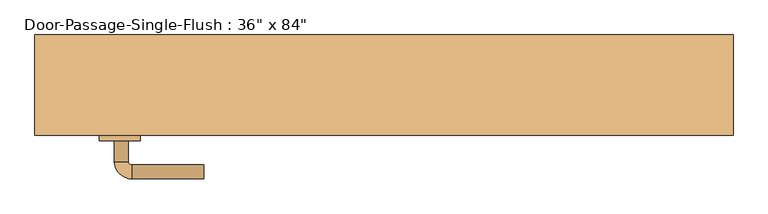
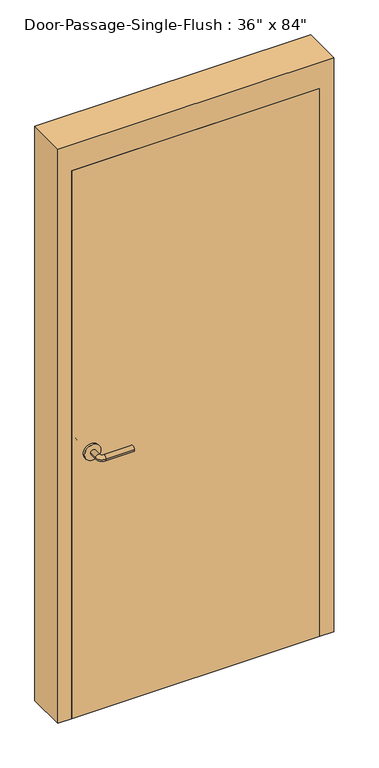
"""IFC4 building model written with IfcOpenShell, lengths in millimetres: door geometry."""

import ifcopenshell
import ifcopenshell.guid

model = None  # the IFC model being written
_history = None  # IfcOwnerHistory: only IFC2X3 demands one
_inside = {}  # id of a spatial element -> (the spatial element, [elements in it])
_under = {}  # id of a project, library or spatial element -> (it, [spatial elements below it])
_declared = {}  # id of a project -> (the project, [libraries it declares])
_typed = {}  # id of a type object -> (the type object, [elements of that type])
_made_of = {}  # id of a material, layer set ... -> (it, [elements and type objects made of it])


def new_model(schema):
    """Start an empty IFC model of exactly this schema.

    Asked for "IFC4X3", IfcOpenShell would pick the latest addendum, in which some entities
    have other attributes; the version numbers below select the first issue.
    IFC2X3 requires an IfcOwnerHistory on every rooted entity: one is made here for all.
    """
    global model, _history
    if schema == "IFC4X3":
        model = ifcopenshell.file(schema_version=(4, 3, 0, 0))
    else:
        model = ifcopenshell.file(schema=schema)
    _inside.clear()
    _under.clear()
    _declared.clear()
    _typed.clear()
    _made_of.clear()
    _history = None
    if model.schema == "IFC2X3":
        org = make("IfcOrganization", Name="unknown")
        user = make(
            "IfcPersonAndOrganization",
            ThePerson=make("IfcPerson", FamilyName="unknown"),
            TheOrganization=org,
        )
        app = make(
            "IfcApplication",
            ApplicationDeveloper=org,
            Version="unknown",
            ApplicationFullName="unknown",
            ApplicationIdentifier="unknown",
        )
        _history = make(
            "IfcOwnerHistory",
            OwningUser=user,
            OwningApplication=app,
            ChangeAction="ADDED",
            CreationDate=0,
        )
    return model


def make(cls, **values):
    """One entity of the class cls with the attributes given. An attribute that is None is left unset."""
    return model.create_entity(
        cls, **{name: value for name, value in values.items() if value is not None}
    )


def rooted(cls, **values):
    """An entity with a GlobalId (a new one), such as an element, a storey or a relation."""
    return make(cls, GlobalId=ifcopenshell.guid.new(), OwnerHistory=_history, **values)


def si_unit(unit_type, name, prefix=None):
    """IfcSIUnit, for example si_unit("LENGTHUNIT", "METRE", prefix="MILLI")."""
    return make("IfcSIUnit", UnitType=unit_type, Prefix=prefix, Name=name)


def assignment(units):
    """IfcUnitAssignment: the units of a project."""
    return None if units is None else make("IfcUnitAssignment", Units=units)


def point(xyz):
    """IfcCartesianPoint."""
    return None if xyz is None else make("IfcCartesianPoint", Coordinates=xyz)


def direction(xyz):
    """IfcDirection."""
    return None if xyz is None else make("IfcDirection", DirectionRatios=xyz)


def frame(location, z_axis=None, x_axis=None):
    """IfcAxis2Placement3D, a coordinate frame: its origin and axes. An axis left out is left unset."""
    return make(
        "IfcAxis2Placement3D",
        Location=point(location),
        Axis=direction(z_axis),
        RefDirection=direction(x_axis),
    )


def frame_2d(location, x_axis=None):
    """IfcAxis2Placement2D, a coordinate frame in the plane: its origin and x axis."""
    return make(
        "IfcAxis2Placement2D", Location=point(location), RefDirection=direction(x_axis)
    )


def origin():
    """The frame at (0, 0, 0) with its axes left unset."""
    return frame((0.0, 0.0, 0.0))


def origin_with_axes():
    """The frame at (0, 0, 0) with the z axis (0, 0, 1) and the x axis (1, 0, 0) written out."""
    return frame((0.0, 0.0, 0.0), z_axis=(0.0, 0.0, 1.0), x_axis=(1.0, 0.0, 0.0))


def place(relative_to, where):
    """IfcLocalPlacement: puts the frame where relative to a parent placement (None: the world)."""
    return make(
        "IfcLocalPlacement", PlacementRelTo=relative_to, RelativePlacement=where
    )


def context(
    kind, dimensions, precision=None, world=None, true_north=None, identifier=None
):
    """IfcGeometricRepresentationContext, for example the 3D "Model" context."""
    return make(
        "IfcGeometricRepresentationContext",
        ContextIdentifier=identifier,
        ContextType=kind,
        CoordinateSpaceDimension=dimensions,
        Precision=precision,
        WorldCoordinateSystem=world,
        TrueNorth=true_north,
    )


def project(units=None, contexts=None):
    """IfcProject with its units and contexts."""
    return rooted(
        "IfcProject",
        Name="project",
        RepresentationContexts=contexts,
        UnitsInContext=assignment(units),
    )


def spatial(cls, under=None, at=None, **own):
    """A site, building, storey or space (cls), placed at a placement, below another one or the project."""
    s = rooted(cls, ObjectPlacement=at, **own)
    if under is not None:
        _under.setdefault(under.id(), (under, []))[1].append(s)
    return s


def polyline(points):
    """IfcPolyline through the points."""
    return make("IfcPolyline", Points=[point(p) for p in points])


def circle_curve(where, radius):
    """IfcCircle in the frame where."""
    return make("IfcCircle", Position=where, Radius=radius)


def ellipse_curve(where, semi_axis1, semi_axis2):
    """IfcEllipse in the frame where."""
    return make(
        "IfcEllipse", Position=where, SemiAxis1=semi_axis1, SemiAxis2=semi_axis2
    )


def trimmed(basis, trim1, trim2, sense, master):
    """IfcTrimmedCurve: the piece of a basis curve between two trims."""
    return make(
        "IfcTrimmedCurve",
        BasisCurve=basis,
        Trim1=trim1,
        Trim2=trim2,
        SenseAgreement=sense,
        MasterRepresentation=master,
    )


def segment(curve, same_sense, transition):
    """IfcCompositeCurveSegment."""
    return make(
        "IfcCompositeCurveSegment",
        Transition=transition,
        SameSense=same_sense,
        ParentCurve=curve,
    )


def composite_curve(segments, self_intersect=None):
    """IfcCompositeCurve: segments joined end to end."""
    return make("IfcCompositeCurve", Segments=segments, SelfIntersect=self_intersect)


def outline(outer, holes=None, kind="AREA"):
    """IfcArbitraryClosedProfileDef: a profile drawn as a closed curve; with holes, ...WithVoids."""
    if holes is None:
        return make("IfcArbitraryClosedProfileDef", ProfileType=kind, OuterCurve=outer)
    return make(
        "IfcArbitraryProfileDefWithVoids",
        ProfileType=kind,
        OuterCurve=outer,
        InnerCurves=holes,
    )


def extrude(swept, where, along, depth):
    """IfcExtrudedAreaSolid: the profile swept, set in the frame where, extruded along a direction by depth."""
    return make(
        "IfcExtrudedAreaSolid",
        SweptArea=swept,
        Position=where,
        ExtrudedDirection=direction(along),
        Depth=depth,
    )


def faces_of(points, faces, orient=None, outer=None):
    """IfcFace entities. A face is a list of loops; a loop is a list of indices into points, from 0.

    orient and outer hold one flag for each loop. By default every Orientation is true, the
    first loop of a face is its IfcFaceOuterBound and the others are IfcFaceBound.
    """
    made = []
    for i, loops in enumerate(faces):
        bounds = []
        for j, loop in enumerate(loops):
            is_outer = j == 0 if outer is None else outer[i][j]
            bounds.append(
                make(
                    "IfcFaceOuterBound" if is_outer else "IfcFaceBound",
                    Bound=make("IfcPolyLoop", Polygon=[points[k] for k in loop]),
                    Orientation=True if orient is None else orient[i][j],
                )
            )
        made.append(make("IfcFace", Bounds=bounds))
    return made


def faceted_brep(points, faces, orient=None, outer=None, voids=None):
    """IfcFacetedBrep: a solid bounded by flat faces; with voids (closed shells), ...WithVoids."""
    shared = [point(p) for p in points]
    hull = make("IfcClosedShell", CfsFaces=faces_of(shared, faces, orient, outer))
    if voids is None:
        return make("IfcFacetedBrep", Outer=hull)
    return make(
        "IfcFacetedBrepWithVoids",
        Outer=hull,
        Voids=[
            make(cls, CfsFaces=faces_of(shared, fs, o, b)) for cls, fs, o, b in voids
        ],
    )


def shape(context_of_items, identifier, shape_type, items):
    """IfcShapeRepresentation: the items that make up one representation, for example the "Body"."""
    return make(
        "IfcShapeRepresentation",
        ContextOfItems=context_of_items,
        RepresentationIdentifier=identifier,
        RepresentationType=shape_type,
        Items=items,
    )


def source(mapping_origin, context_of_items, identifier, shape_type, items):
    """IfcRepresentationMap: a shape defined once, which mapped items show again and again."""
    return make(
        "IfcRepresentationMap",
        MappingOrigin=mapping_origin,
        MappedRepresentation=shape(context_of_items, identifier, shape_type, items),
    )


def transform(
    local_origin,
    x_axis=None,
    y_axis=None,
    z_axis=None,
    scale=None,
    scale2=None,
    scale3=None,
    uniform=True,
):
    """IfcCartesianTransformationOperator3D, or its non-uniform kind. x_axis, y_axis, z_axis: its Axis1, 2, 3."""
    if uniform:
        return make(
            "IfcCartesianTransformationOperator3D",
            Axis1=direction(x_axis),
            Axis2=direction(y_axis),
            LocalOrigin=point(local_origin),
            Scale=scale,
            Axis3=direction(z_axis),
        )
    return make(
        "IfcCartesianTransformationOperator3DnonUniform",
        Axis1=direction(x_axis),
        Axis2=direction(y_axis),
        LocalOrigin=point(local_origin),
        Scale=scale,
        Axis3=direction(z_axis),
        Scale2=scale2,
        Scale3=scale3,
    )


def mapped(mapping_source, mapping_target):
    """IfcMappedItem: shows the shape of a source again, moved by a transform."""
    return make(
        "IfcMappedItem", MappingSource=mapping_source, MappingTarget=mapping_target
    )


def made_of(thing, what):
    """Note that an element or type object is made of a material, layer set ...; save() writes the relation."""
    if what is not None:
        _made_of.setdefault(what.id(), (what, []))[1].append(thing)
    return thing


def element(
    cls,
    number,
    at=None,
    inside=None,
    cuts=None,
    type_object=None,
    material=None,
    context=None,
    identifier="Body",
    shape_type=None,
    held_by="IfcProductDefinitionShape",
    body=None,
    shapes=None,
    **own,
):
    """One element of the class cls, such as IfcWall. Its Tag is "e" and its number.

    at: its placement. inside: the storey or other place that contains it. cuts: it is an
    opening in that element (IfcRelVoidsElement). A single representation is given by context,
    identifier, shape_type and body (its items); several are given by shapes. held_by: the class
    of the entity that holds the representations. save() writes the other relations.
    """
    e = rooted(cls, Tag="e%d" % number, ObjectPlacement=at, **own)
    if body is not None:
        shapes = [shape(context, identifier, shape_type, body)]
    if shapes is not None:
        e.Representation = make(held_by, Representations=shapes)
    if inside is not None:
        _inside.setdefault(inside.id(), (inside, []))[1].append(e)
    if cuts is not None:
        rooted(
            "IfcRelVoidsElement", RelatingBuildingElement=cuts, RelatedOpeningElement=e
        )
    if type_object is not None:
        _typed.setdefault(type_object.id(), (type_object, []))[1].append(e)
    return made_of(e, material)


def aggregate(whole, parts):
    """IfcRelAggregates: a whole, such as a stair, and the parts it consists of."""
    return rooted("IfcRelAggregates", RelatingObject=whole, RelatedObjects=parts)


def save(model, path):
    """Write the relations noted so far, then the file.

    IfcRelAggregates (storeys below a building ...), IfcRelContainedInSpatialStructure (elements
    in a storey), IfcRelDefinesByType, IfcRelAssociatesMaterial and IfcRelDeclares: one each for
    every whole, place, type object, material and project.
    """
    for whole, parts in _under.values():
        aggregate(whole, parts)
    for where, things in _inside.values():
        rooted(
            "IfcRelContainedInSpatialStructure",
            RelatedElements=things,
            RelatingStructure=where,
        )
    for kind, things in _typed.values():
        rooted("IfcRelDefinesByType", RelatedObjects=things, RelatingType=kind)
    for what, things in _made_of.values():
        rooted("IfcRelAssociatesMaterial", RelatedObjects=things, RelatingMaterial=what)
    for by, libraries in _declared.values():
        rooted("IfcRelDeclares", RelatingContext=by, RelatedDefinitions=libraries)
    model.write(path)


def plane_surface(at):
    """IfcPlane: the flat surface through the origin of the frame at, square to its z axis."""
    return make("IfcPlane", Position=at)


def cylinder_surface(at, radius):
    """IfcCylindricalSurface: all points at the distance radius from the z axis of the frame at."""
    return make("IfcCylindricalSurface", Position=at, Radius=radius)


def revolved_surface(curve, axis_point, axis_direction):
    """IfcSurfaceOfRevolution: the curve turned about the line through axis_point along axis_direction."""
    return make(
        "IfcSurfaceOfRevolution",
        SweptCurve=make("IfcArbitraryOpenProfileDef", ProfileType="CURVE", Curve=curve),
        AxisPosition=make("IfcAxis1Placement", Location=point(axis_point), Axis=direction(axis_direction)),
    )


def advanced_brep(points, edges, surfaces, faces):
    """IfcAdvancedBrep: a solid bounded by faces that lie on surfaces and meet in shared edges.

    An edge is (start, end): straight between two places in points (the first is 0);
    or (start, end, curve); or (start, end, curve, False) where it runs against its curve.
    A face is (place in surfaces, loops), or (place, loops, False) where it looks against
    its surface's normal. A loop lists edges by number (the first is 1), with a minus sign
    where the edge is run from its end to its start. The first loop is the outer one.
    """
    corners = [point(p) for p in points]
    vertices = [make("IfcVertexPoint", VertexGeometry=c) for c in corners]
    made = []
    for start, end, *more in edges:
        made.append(
            make(
                "IfcEdgeCurve",
                EdgeStart=vertices[start],
                EdgeEnd=vertices[end],
                EdgeGeometry=more[0] if more else make("IfcPolyline", Points=[corners[start], corners[end]]),
                SameSense=more[1] if len(more) > 1 else True,
            )
        )
    hull = []
    for where, loops, *sense in faces:
        bounds = []
        for j, loop in enumerate(loops):
            ring = [make("IfcOrientedEdge", EdgeElement=made[abs(k) - 1], Orientation=k > 0) for k in loop]
            bounds.append(
                make(
                    "IfcFaceOuterBound" if j == 0 else "IfcFaceBound",
                    Bound=make("IfcEdgeLoop", EdgeList=ring),
                    Orientation=True,
                )
            )
        hull.append(make("IfcAdvancedFace", Bounds=bounds, FaceSurface=surfaces[where], SameSense=sense[0] if sense else True))
    return make("IfcAdvancedBrep", Outer=make("IfcClosedShell", CfsFaces=hull))


def door_733e7269(model_context):
    return source(origin(), model_context, "Body", "SolidModel", [
        advanced_brep(
        [(-392.190625, 8.0, 1016.0), (-372.190625, 8.0, 1016.0), (-392.190625, 38.0, 1016.0), (-372.190625, 38.0, 1016.0), (-367.190625, 43.0, 1016.0), (-367.190625, 63.0, 1016.0), (-262.190625, 63.0, 1016.0), (-262.190625, 43.0, 1016.0)],
        [
            (0, 1, circle_curve(frame((-382.190625, 8.0, 1016.0), z_axis=(0.0, -1.0, 0.0), x_axis=(1.0, 0.0, 0.0)), 10.0)),
            (1, 0, circle_curve(frame((-382.190625, 8.0, 1016.0), z_axis=(0.0, -1.0, 0.0), x_axis=(1.0, 0.0, 0.0)), 10.0)),
            (0, 2),
            (2, 3, circle_curve(frame((-382.190625, 38.0, 1016.0), z_axis=(0.0, -1.0, 0.0), x_axis=(1.0, 0.0, 0.0)), 10.0)),
            (3, 1),
            (3, 2, circle_curve(frame((-382.190625, 38.0, 1016.0), z_axis=(0.0, -1.0, 0.0), x_axis=(1.0, 0.0, 0.0)), 10.0)),
            (4, 3, circle_curve(frame((-367.190625, 38.0, 1016.0), z_axis=(0.0, 0.0, 1.0), x_axis=(-1.0, 0.0, 0.0)), 5.0)),
            (2, 5, circle_curve(frame((-367.190625, 38.0, 1016.0), z_axis=(0.0, 0.0, -1.0), x_axis=(-1.0, 0.0, 0.0)), 25.0)),
            (5, 4, circle_curve(frame((-367.190625, 53.0, 1016.0), z_axis=(-1.0, 0.0, 0.0), x_axis=(0.0, -1.0, 0.0)), 10.0)),
            (4, 5, circle_curve(frame((-367.190625, 53.0, 1016.0), z_axis=(-1.0, 0.0, 0.0), x_axis=(0.0, -1.0, 0.0)), 10.0)),
            (6, 7, circle_curve(frame((-262.190625, 53.0, 1016.0), z_axis=(1.0, 0.0, 0.0), x_axis=(0.0, -1.0, 0.0)), 10.0)),
            (7, 6, circle_curve(frame((-262.190625, 53.0, 1016.0), z_axis=(1.0, 0.0, 0.0), x_axis=(0.0, -1.0, 0.0)), 10.0)),
            (5, 6),
            (7, 4),
        ],
        [
            plane_surface(frame((-382.190625, 8.0, 1016.0), z_axis=(0.0, -1.0, 0.0), x_axis=(0.0, 0.0, 1.0))),
            cylinder_surface(frame((-382.190625, 8.0, 1016.0), z_axis=(0.0, -1.0, 0.0), x_axis=(1.0, 0.0, 0.0)), 10.0),
            revolved_surface(trimmed(ellipse_curve(frame((-382.190625, 38.0, 1016.0), z_axis=(0.0, -1.0, 0.0), x_axis=(1.0, 0.0, 0.0)), 10.0, 10.0), [point((-392.190625, 38.0, 1016.0))], [point((-372.190625, 38.0, 1016.0))], True, "CARTESIAN"), (-367.190625, 38.0, 1016.0), (0.0, 0.0, -1.0)),
            revolved_surface(trimmed(ellipse_curve(frame((-382.190625, 38.0, 1016.0), z_axis=(0.0, -1.0, 0.0), x_axis=(1.0, 0.0, 0.0)), 10.0, 10.0), [point((-372.190625, 38.0, 1016.0))], [point((-392.190625, 38.0, 1016.0))], True, "CARTESIAN"), (-367.190625, 38.0, 1016.0), (0.0, 0.0, -1.0)),
            plane_surface(frame((-262.190625, 53.0, 1016.0), z_axis=(1.0, 0.0, 0.0), x_axis=(0.0, 0.0, 1.0))),
            cylinder_surface(frame((-367.190625, 53.0, 1016.0), z_axis=(-1.0, 0.0, 0.0), x_axis=(0.0, -1.0, 0.0)), 10.0),
        ],
        [
            (0, [[1, 2]]),
            (1, [[-1, 3, 4, 5]]),
            (1, [[-2, -5, 6, -3]]),
            (2, [[7, -4, 8, 9]]),
            (3, [[-8, -6, -7, 10]]),
            (4, [[11, 12]]),
            (5, [[-9, 13, -12, 14]]),
            (5, [[-10, -14, -11, -13]]),
        ],
    ),
        extrude(outline(composite_curve([segment(trimmed(circle_curve(frame_2d((1016.0, -384.690625)), 30.0), [point((1016.0, -414.690625))], [point((1016.0, -354.690625))], False, "CARTESIAN"), True, "CONTINUOUS"), segment(trimmed(circle_curve(frame_2d((1016.0, -384.690625)), 30.0), [point((1016.0, -354.690625))], [point((1016.0, -414.690625))], False, "CARTESIAN"), True, "CONTINUOUS")], self_intersect=False)), frame((0.0, 0.0, 0.0), z_axis=(0.0, 1.0, 0.0), x_axis=(0.0, 0.0, 1.0)), (0.0, 0.0, 1.0), 8.0),
        advanced_brep(
        [(-392.190625, -52.45, 1016.0), (-372.190625, -52.45, 1016.0), (-372.190625, -82.45, 1016.0), (-392.190625, -82.45, 1016.0), (-367.190625, -87.45, 1016.0), (-367.190625, -107.45, 1016.0), (-262.190625, -107.45, 1016.0), (-262.190625, -87.45, 1016.0)],
        [
            (0, 1, circle_curve(frame((-382.190625, -52.45, 1016.0), z_axis=(0.0, 1.0, 0.0), x_axis=(1.0, 0.0, 0.0)), 10.0)),
            (1, 0, circle_curve(frame((-382.190625, -52.45, 1016.0), z_axis=(0.0, 1.0, 0.0), x_axis=(1.0, 0.0, 0.0)), 10.0)),
            (1, 2),
            (2, 3, circle_curve(frame((-382.190625, -82.45, 1016.0), z_axis=(0.0, 1.0, 0.0), x_axis=(1.0, 0.0, 0.0)), 10.0)),
            (3, 0),
            (3, 2, circle_curve(frame((-382.190625, -82.45, 1016.0), z_axis=(0.0, 1.0, 0.0), x_axis=(1.0, 0.0, 0.0)), 10.0)),
            (4, 5, circle_curve(frame((-367.190625, -97.45, 1016.0), z_axis=(-1.0, 0.0, 0.0), x_axis=(0.0, 1.0, 0.0)), 10.0)),
            (5, 3, circle_curve(frame((-367.190625, -82.45, 1016.0), z_axis=(0.0, 0.0, -1.0), x_axis=(-1.0, 0.0, 0.0)), 25.0)),
            (2, 4, circle_curve(frame((-367.190625, -82.45, 1016.0), z_axis=(0.0, 0.0, 1.0), x_axis=(-1.0, 0.0, 0.0)), 5.0)),
            (5, 4, circle_curve(frame((-367.190625, -97.45, 1016.0), z_axis=(-1.0, 0.0, 0.0), x_axis=(0.0, 1.0, 0.0)), 10.0)),
            (6, 7, circle_curve(frame((-262.190625, -97.45, 1016.0), z_axis=(1.0, 0.0, 0.0), x_axis=(0.0, 1.0, 0.0)), 10.0)),
            (7, 6, circle_curve(frame((-262.190625, -97.45, 1016.0), z_axis=(1.0, 0.0, 0.0), x_axis=(0.0, 1.0, 0.0)), 10.0)),
            (4, 7),
            (6, 5),
        ],
        [
            plane_surface(frame((-382.190625, -52.45, 1016.0), z_axis=(0.0, 1.0, 0.0), x_axis=(0.0, 0.0, 1.0))),
            cylinder_surface(frame((-382.190625, -52.45, 1016.0), z_axis=(0.0, 1.0, 0.0), x_axis=(1.0, 0.0, 0.0)), 10.0),
            revolved_surface(trimmed(ellipse_curve(frame((-382.190625, -82.45, 1016.0), z_axis=(0.0, -1.0, 0.0), x_axis=(1.0, 0.0, 0.0)), 10.0, 10.0), [point((-392.190625, -82.45, 1016.0))], [point((-372.190625, -82.45, 1016.0))], True, "CARTESIAN"), (-367.190625, -82.45, 1016.0), (0.0, 0.0, -1.0)),
            revolved_surface(trimmed(ellipse_curve(frame((-382.190625, -82.45, 1016.0), z_axis=(0.0, -1.0, 0.0), x_axis=(1.0, 0.0, 0.0)), 10.0, 10.0), [point((-372.190625, -82.45, 1016.0))], [point((-392.190625, -82.45, 1016.0))], True, "CARTESIAN"), (-367.190625, -82.45, 1016.0), (0.0, 0.0, -1.0)),
            plane_surface(frame((-262.190625, -97.45, 1016.0), z_axis=(1.0, 0.0, 0.0), x_axis=(0.0, 0.0, 1.0))),
            cylinder_surface(frame((-367.190625, -97.45, 1016.0), z_axis=(-1.0, 0.0, 0.0), x_axis=(0.0, 1.0, 0.0)), 10.0),
        ],
        [
            (0, [[1, 2]]),
            (1, [[3, 4, 5, -2]]),
            (1, [[-5, 6, -3, -1]]),
            (2, [[7, 8, -4, 9]]),
            (3, [[10, -9, -6, -8]]),
            (4, [[11, 12]]),
            (5, [[13, -11, 14, -7]]),
            (5, [[-14, -12, -13, -10]]),
        ],
    ),
        extrude(outline(composite_curve([segment(trimmed(circle_curve(frame_2d((1016.0, -384.690625)), 30.0), [point((1016.0, -414.690625))], [point((1016.0, -354.690625))], False, "CARTESIAN"), True, "CONTINUOUS"), segment(trimmed(circle_curve(frame_2d((1016.0, -384.690625)), 30.0), [point((1016.0, -354.690625))], [point((1016.0, -414.690625))], False, "CARTESIAN"), True, "CONTINUOUS")], self_intersect=False)), frame((0.0, -52.45, 0.0), z_axis=(0.0, 1.0, 0.0), x_axis=(0.0, 0.0, 1.0)), (0.0, 0.0, 1.0), 8.0),
        faceted_brep([(457.2, 4.7625, 0.0), (441.325, 4.7625, 0.0), (441.325, 52.3875, 0.0), (457.2, 52.3875, 0.0), (457.2, 101.6, 0.0), (508.0, 101.6, 0.0), (508.0, -44.45, 0.0), (457.2, -44.45, 0.0), (457.2, -44.45, 2133.6), (457.2, 4.7625, 2133.6), (508.0, -44.45, 2235.2), (-508.0, -44.45, 2235.2), (-508.0, -44.45, 0.0), (-457.2, -44.45, 0.0), (-457.2, -44.45, 2133.6), (508.0, 101.6, 2235.2), (457.2, 101.6, 2133.6), (-457.2, 101.6, 2133.6), (-457.2, 101.6, 0.0), (-508.0, 101.6, 0.0), (-508.0, 101.6, 2235.2), (457.2, 52.3875, 2133.6), (441.325, 52.3875, 2117.725), (-441.325, 52.3875, 2117.725), (-441.325, 52.3875, 0.0), (-457.2, 52.3875, 0.0), (-457.2, 52.3875, 2133.6), (441.325, 4.7625, 2117.725), (-457.2, 4.7625, 2133.6), (-457.2, 4.7625, 0.0), (-441.325, 4.7625, 0.0), (-441.325, 4.7625, 2117.725)], [[[0, 1, 2, 3, 4, 5, 6, 7]], [[7, 8, 9, 0]], [[6, 10, 11, 12, 13, 14, 8, 7]], [[5, 15, 10, 6]], [[4, 16, 17, 18, 19, 20, 15, 5]], [[3, 21, 16, 4]], [[2, 22, 23, 24, 25, 26, 21, 3]], [[1, 27, 22, 2]], [[0, 9, 28, 29, 30, 31, 27, 1]], [[8, 14, 28, 9]], [[16, 21, 26, 17]], [[22, 27, 31, 23]], [[12, 19, 18, 25, 24, 30, 29, 13]], [[13, 29, 28, 14]], [[11, 20, 19, 12]], [[17, 26, 25, 18]], [[23, 31, 30, 24]], [[15, 20, 11, 10]]]),
        extrude(outline(polyline([(457.2, 0.0), (457.2, -44.45), (-457.2, -44.45), (-457.2, 0.0), (457.2, 0.0)])), origin_with_axes(), (0.0, 0.0, 1.0), 2133.6),
    ])


if __name__ == "__main__":
    model = new_model("IFC4")
    model_context = context("Model", 3, world=origin())
    ifc_project = project(units=[si_unit("LENGTHUNIT", "METRE", prefix="MILLI")], contexts=[model_context])
    site = spatial("IfcSite", under=ifc_project)
    building = spatial("IfcBuilding", under=site)
    placement = place(None, origin())
    door_shape = door_733e7269(model_context)
    element("IfcDoor", 1, ObjectType="Door-Passage-Single-Flush : 36\" x 84\"", at=placement, inside=building, context=model_context, shape_type="MappedRepresentation", body=[
        mapped(door_shape, transform((0.0, 0.0, 0.0), x_axis=(1.0, 0.0, 0.0), y_axis=(0.0, 1.0, 0.0), z_axis=(0.0, 0.0, 1.0))),
    ])
    save(model, "model.ifc")
